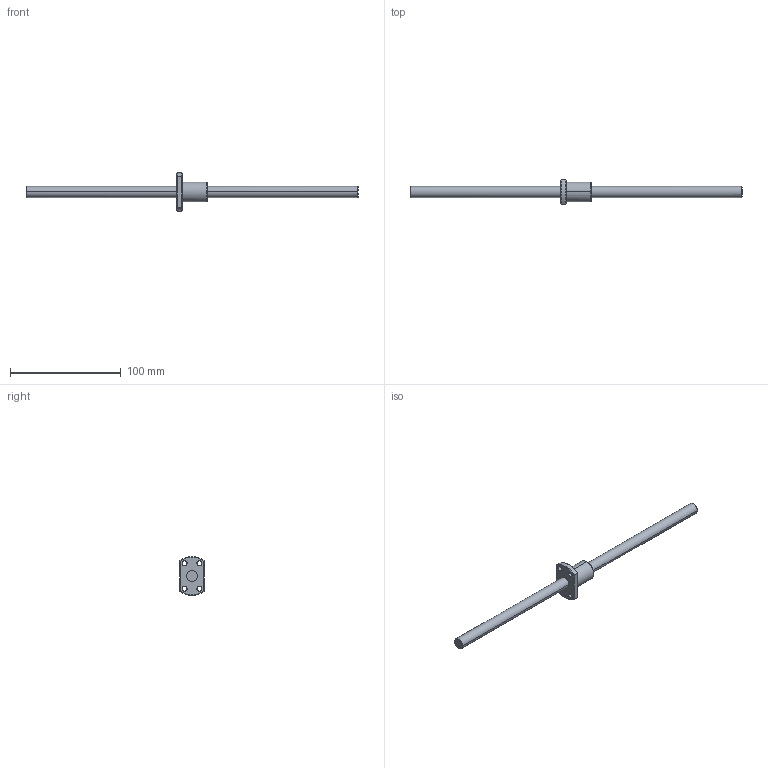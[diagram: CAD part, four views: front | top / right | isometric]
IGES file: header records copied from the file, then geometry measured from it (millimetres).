
Global section: file name: No Iges File Name specified; native system: AutoDesk Inventor R11.0; preprocessor: AutoDesk Inventor Iges Exporter R11.0; author: No Author specified; organization: No Organization specified; date: 20151223.103209; units: millimetre
Bounding box: 300 x 22 x 34.99 mm (x, y, z)
Surface area: 13624.9 mm2 (no closed solid volume)
Topology: 0 solids, 0 shells, 34 faces, 212 edges, 212 vertices
Faces by surface type: bspline 34
